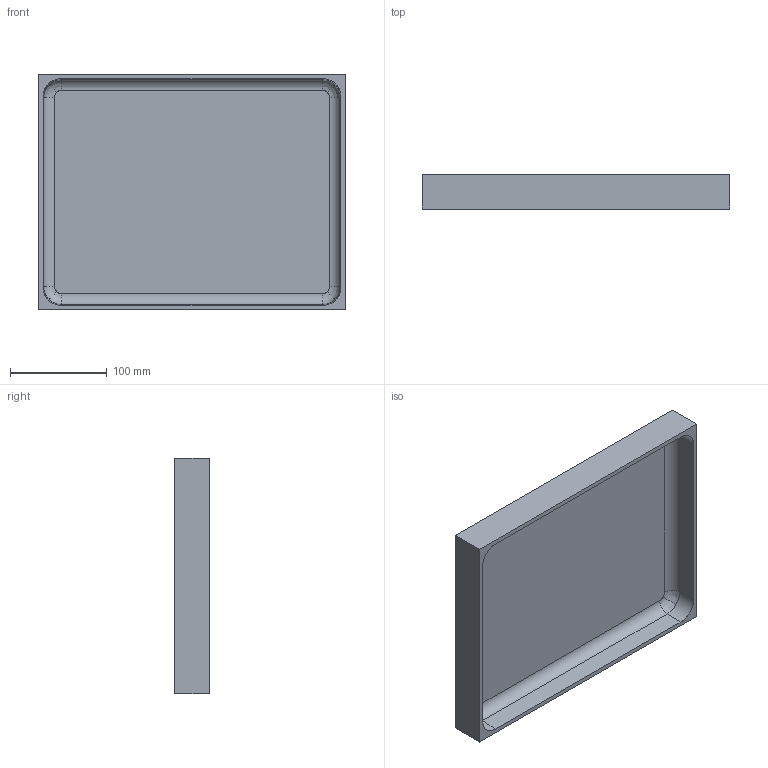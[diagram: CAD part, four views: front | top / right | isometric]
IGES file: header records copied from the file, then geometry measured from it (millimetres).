
Start section: SolidWorks IGES file using analytic representation for surfaces
Global section: file name: C:\working\1402\1400-TOP.IGS; native system: SolidWorks 2006 by SolidWorks Corporation; preprocessor: SolidWorks 2006 by SolidWorks Corporation; author: darato; date: 080131.160845; units: inch
Bounding box: 316.86 x 35.56 x 243.2 mm (x, y, z)
Surface area: 220017.7 mm2 (no closed solid volume)
Topology: 0 solids, 0 shells, 27 faces, 200 edges, 200 vertices
Faces by surface type: bspline 19, revolution 8
